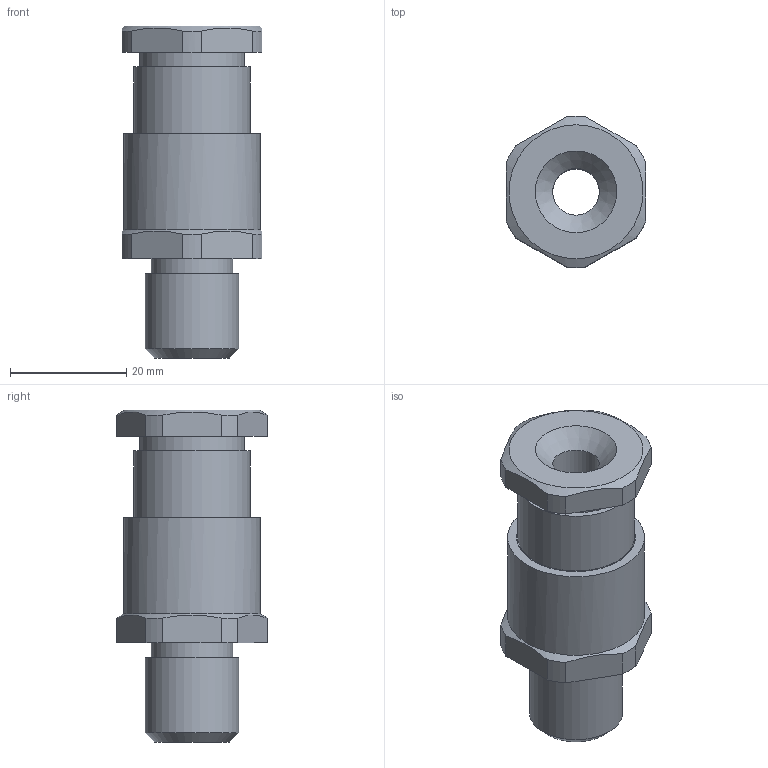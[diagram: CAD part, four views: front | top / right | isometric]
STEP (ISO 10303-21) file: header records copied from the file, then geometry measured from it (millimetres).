
FILE_DESCRIPTION((''),'2;1');
FILE_NAME('D:\WORKS\Чертежи\ТЗ\07.24\108974\КНВ01MНК_3d.stp','2024-07-31T08:52:50',('t.v.ogurnaya'),(''),'Autodesk Inventor 2012','Autodesk Inventor 2012','');
FILE_SCHEMA(('AUTOMOTIVE_DESIGN { 1 0 10303 214 1 1 1 1 }'));
Length unit declared in the file: millimetre
Products named in the file (1): FEC01,7 и выше (параметрика)_Внешний контур_1
Bounding box: 24 x 25.99 x 57 mm (x, y, z)
Volume: 12751.7 mm3; surface area: 7379.1 mm2
Topology: 2 solids, 2 shells, 49 faces, 116 edges, 75 vertices
Faces by surface type: plane 20, cylinder 20, cone 9
Full cylindrical faces by diameter (mm): 8 x2, 14 x1, 16 x1, 18 x1, 18.376 x1, 20 x1, 23.5 x1
Entity records: 1381 total; most frequent: CARTESIAN_POINT 240, DIRECTION 230, ORIENTED_EDGE 190, AXIS2_PLACEMENT_3D 97, EDGE_CURVE 95, EDGE_LOOP 74, VERTEX_POINT 71, STYLED_ITEM 51
